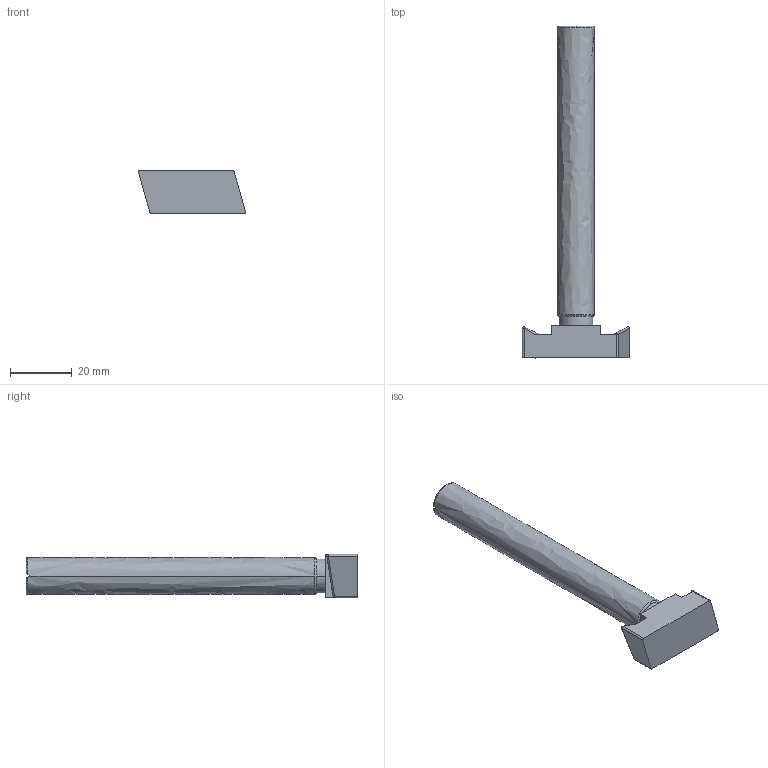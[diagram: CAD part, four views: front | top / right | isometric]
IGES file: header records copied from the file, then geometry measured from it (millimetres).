
Start section: 3D InterOp IGES (v. 2019 1.0.2), Spatial Corp. Copyright (c) 1999-2017.
Global section: file name: TPH12100.igs; native system: Spatial Corp.; preprocessor: 3D InterOp GENERIC/IGES 3.0; author: Noname; organization: Noname; date: 20210225.084247; units: millimetre
Bounding box: 34.68 x 107.5 x 14 mm (x, y, z)
Surface area: 5464.1 mm2 (no closed solid volume)
Topology: 0 solids, 0 shells, 40 faces, 202 edges, 198 vertices
Faces by surface type: revolution 24, extrusion 16
